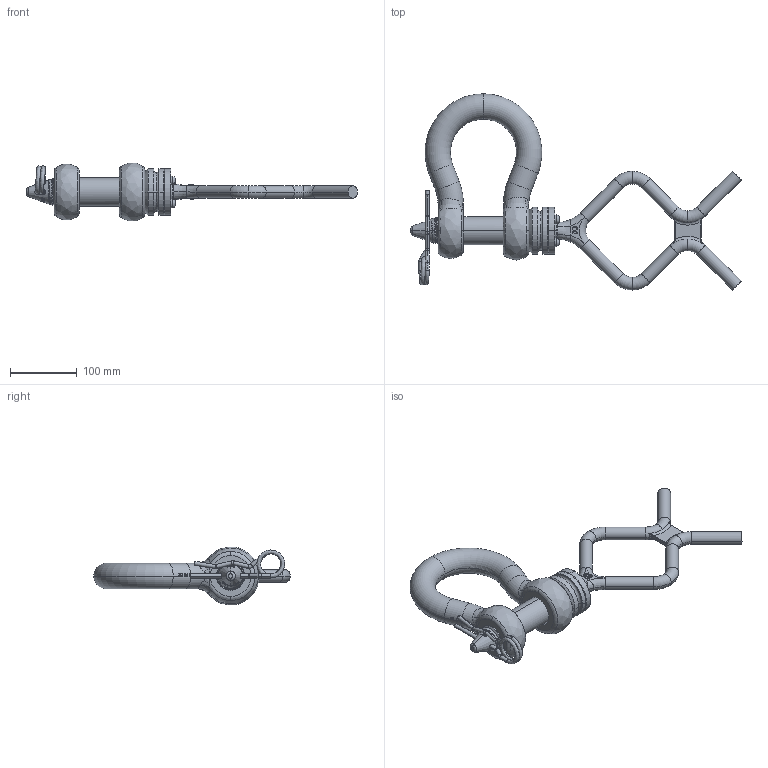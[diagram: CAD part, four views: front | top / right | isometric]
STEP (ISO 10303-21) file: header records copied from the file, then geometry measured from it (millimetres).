
FILE_DESCRIPTION(('STEP AP203'),'1');
FILE_NAME('poghbb38rovrltf.stp','2026-04-28T09:07:07',('TraceParts'),('TraceParts S.A.S.'),'Spatial InterOp 3D',' ',' ');
FILE_SCHEMA(('CONFIG_CONTROL_DESIGN'));
Length unit declared in the file: millimetre
Products named in the file (1): 1
Bounding box: 495.25 x 294.1 x 86.62 mm (x, y, z)
Volume: 1270952 mm3; surface area: 192996.9 mm2
Topology: 12 solids, 12 shells, 984 faces, 2581 edges, 1641 vertices
Faces by surface type: plane 371, bspline 276, cylinder 177, torus 104, cone 56
Entity records: 63016 total; most frequent: CARTESIAN_POINT 40421, ORIENTED_EDGE 5098, DIRECTION 4114, EDGE_CURVE 2549, VERTEX_POINT 1641, AXIS2_PLACEMENT_3D 1530, EDGE_LOOP 1062, LINE 1054
